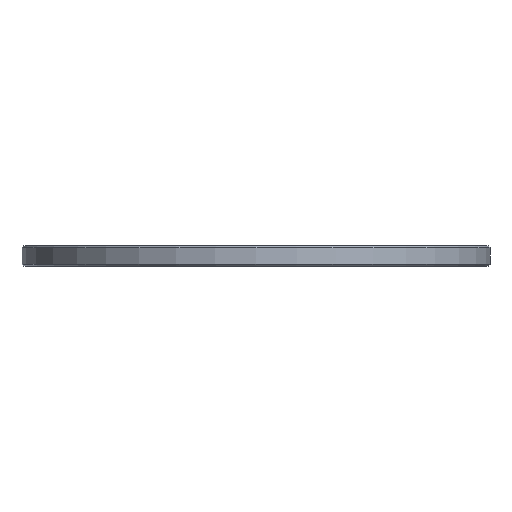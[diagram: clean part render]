
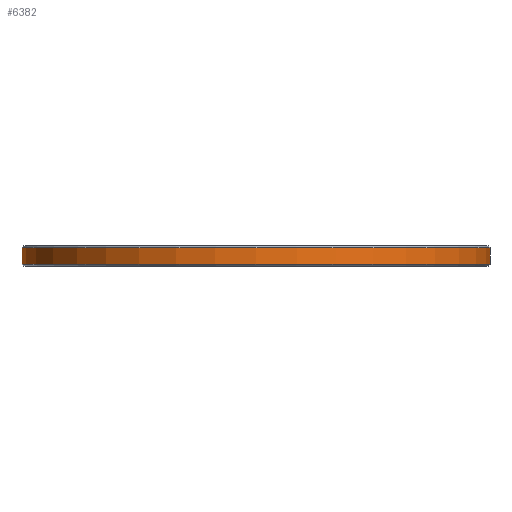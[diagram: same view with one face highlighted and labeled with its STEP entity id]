
A CAD part, front view. The second image highlights one B-rep face of the part: STEP entity #6382.
In plain terms, the highlighted cylindrical face has radius 35.938 mm (diameter 71.875 mm), a full revolution.
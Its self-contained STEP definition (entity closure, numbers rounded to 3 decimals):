
#71=CYLINDRICAL_SURFACE('',#6788,35.938);
#657=FACE_OUTER_BOUND('',#1028,.T.);
#1028=EDGE_LOOP('',(#5915,#5916,#5917,#5918));
#1118=CIRCLE('',#6787,35.938);
#1119=CIRCLE('',#6789,35.938);
#1923=LINE('',#10182,#2738);
#2738=VECTOR('',#8350,35.938);
#3324=VERTEX_POINT('',#10176);
#3325=VERTEX_POINT('',#10180);
#4190=EDGE_CURVE('',#3324,#3324,#1118,.T.);
#4192=EDGE_CURVE('',#3325,#3325,#1119,.T.);
#4193=EDGE_CURVE('',#3325,#3324,#1923,.T.);
#5915=ORIENTED_EDGE('',*,*,#4192,.F.);
#5916=ORIENTED_EDGE('',*,*,#4193,.T.);
#5917=ORIENTED_EDGE('',*,*,#4190,.F.);
#5918=ORIENTED_EDGE('',*,*,#4193,.F.);
#6382=ADVANCED_FACE('',(#657),#71,.T.);
#6787=AXIS2_PLACEMENT_3D('',#10177,#8343,#8344);
#6788=AXIS2_PLACEMENT_3D('',#10179,#8346,#8347);
#6789=AXIS2_PLACEMENT_3D('',#10181,#8348,#8349);
#8343=DIRECTION('center_axis',(0.,0.,-1.));
#8344=DIRECTION('ref_axis',(1.,0.,0.));
#8346=DIRECTION('center_axis',(0.,0.,1.));
#8347=DIRECTION('ref_axis',(1.,0.,0.));
#8348=DIRECTION('center_axis',(0.,0.,1.));
#8349=DIRECTION('ref_axis',(1.,0.,0.));
#8350=DIRECTION('',(0.,0.,-1.));
#10176=CARTESIAN_POINT('',(-35.938,0.,0.3));
#10177=CARTESIAN_POINT('Origin',(0.,0.,0.3));
#10179=CARTESIAN_POINT('Origin',(0.,0.,0.));
#10180=CARTESIAN_POINT('',(-35.938,0.,2.825));
#10181=CARTESIAN_POINT('Origin',(0.,0.,2.825));
#10182=CARTESIAN_POINT('',(-35.938,0.,0.));
